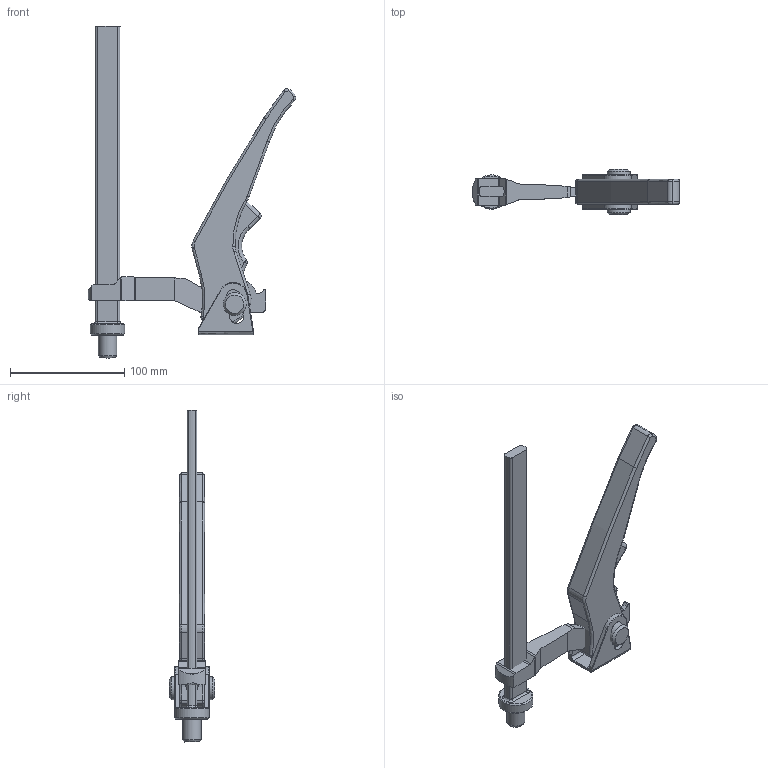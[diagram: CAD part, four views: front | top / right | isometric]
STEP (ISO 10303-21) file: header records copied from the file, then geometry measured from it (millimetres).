
FILE_DESCRIPTION( ('This file contains a STEP AP42 implementation' ,'as created by ZW3D STEP Interface translator.') ,'2;1' );
FILE_NAME( 'TW16-20-10H.stp' ,'15 3 5.134552', (''), ('ZWCAD Software Co.'), 'Version 1.0', 'ZW3D to STEP translator', '' );
FILE_SCHEMA( ('CONFIG_CONTROL_DESIGN') );
Length unit declared in the file: millimetre
Products named in the file (6): 0; TW16-20-10H_unten; Schiene TW16-20 kpl; Gleitbügel; Hebel; Druckplatte
Assembly tree (4 placements, depth 2):
  0
  TW16-20-10H_unten
    Schiene TW16-20 kpl
    Gleitbügel
    Hebel
    Druckplatte
Bounding box: 181.14 x 40 x 290 mm (x, y, z)
Volume: 188445.5 mm3; surface area: 63909.1 mm2
Topology: 6 solids, 8 shells, 184 faces, 440 edges, 272 vertices
Faces by surface type: bspline 184
Entity records: 8132 total; most frequent: CARTESIAN_POINT 5340, ORIENTED_EDGE 878, EDGE_CURVE 440, VERTEX_POINT 272, B_SPLINE_CURVE_WITH_KNOTS 238, EDGE_LOOP 190, FACE_OUTER_BOUND 184, ADVANCED_FACE 184
